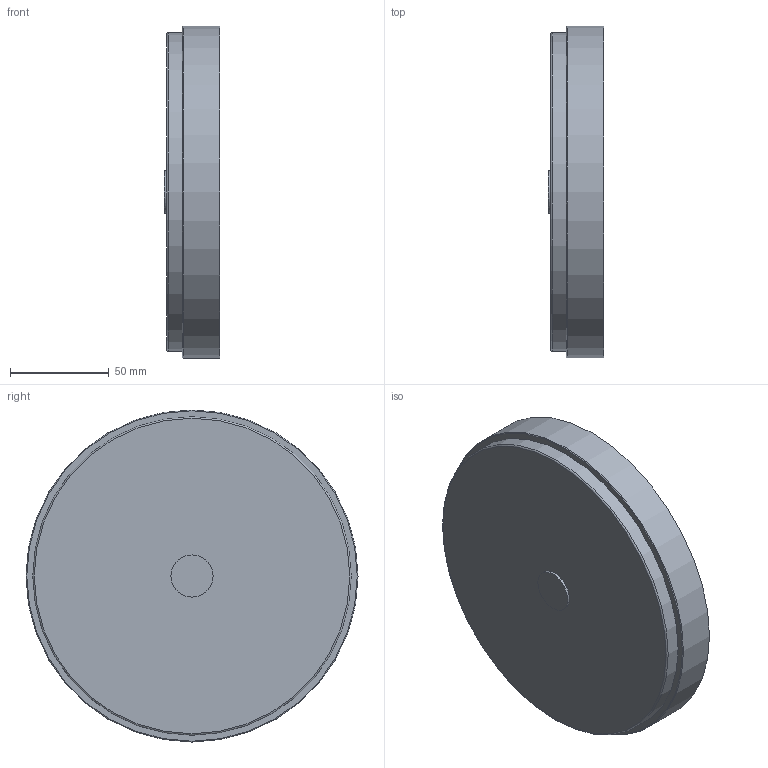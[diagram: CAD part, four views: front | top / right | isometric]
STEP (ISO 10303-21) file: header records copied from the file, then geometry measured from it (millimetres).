
FILE_DESCRIPTION(/* description */ ('VIC STRENGTHIN CAP No E496 w/Tap 1/2 inch BSPT (Concentric)','CAx-IF Rec.Pracs.---Representation and Presentation of Product Manufacturing Information (PMI)---4.0---2014-10-13'),/* implementation_level */ '2;1');
FILE_NAME(/* name */ 'C:\Users\Vjadhav\AppData\Roaming\Autodesk\ApplicationPlugins\Back Up\Victaulic_SS-StrengThin 100_Cap With Tap_No E496 (ST1)\Victaulic_SS-StrengThin 100_Cap With Tap_No E496 (ST1)_06.0x0.5 (150x15).stp',/* time_stamp */ '2020-07-07T18:47:05+05:00',/* author */ ('jheald'),/* organization */ ('Victaulic'),/* preprocessor_version */ 'ST-DEVELOPER v17.2',/* originating_system */ 'Autodesk Inventor 2019',/* authorisation */ '');
FILE_SCHEMA (('AP242_MANAGED_MODEL_BASED_3D_ENGINEERING_MIM_LF { 1 0 10303 442 1 1 4 }'));
Length unit declared in the file: inch
Products named in the file (1): E496-06.0x0.5
Bounding box: 28.19 x 168.28 x 168.28 mm (x, y, z)
Volume: 405269.4 mm3; surface area: 63041.2 mm2
Topology: 1 solids, 1 shells, 11 faces, 26 edges, 20 vertices
Faces by surface type: plane 5, cylinder 4, torus 2
Full cylindrical faces by diameter (mm): 21.336 x1, 154.051 x1, 161.417 x1, 168.275 x1
Entity records: 489 total; most frequent: DIRECTION 98, CARTESIAN_POINT 75, ORIENTED_EDGE 52, AXIS2_PLACEMENT_3D 47, EDGE_CURVE 26, CIRCLE 22, VERTEX_POINT 20, EDGE_LOOP 14
